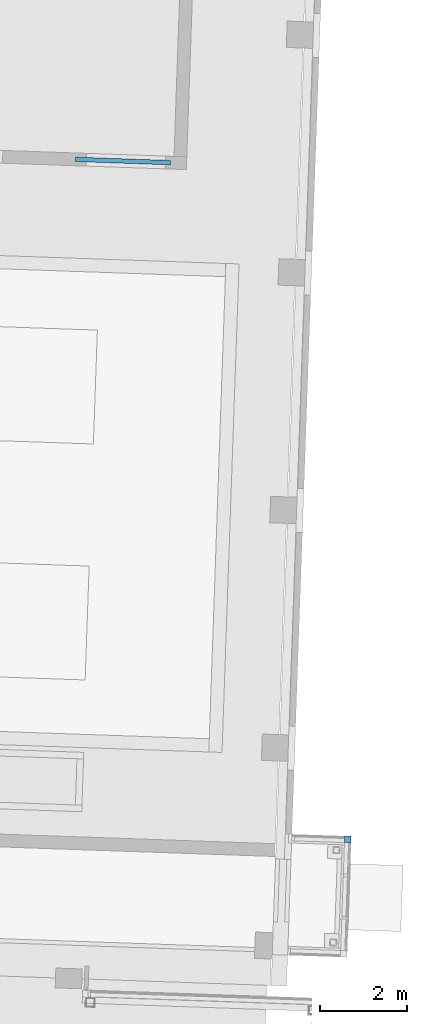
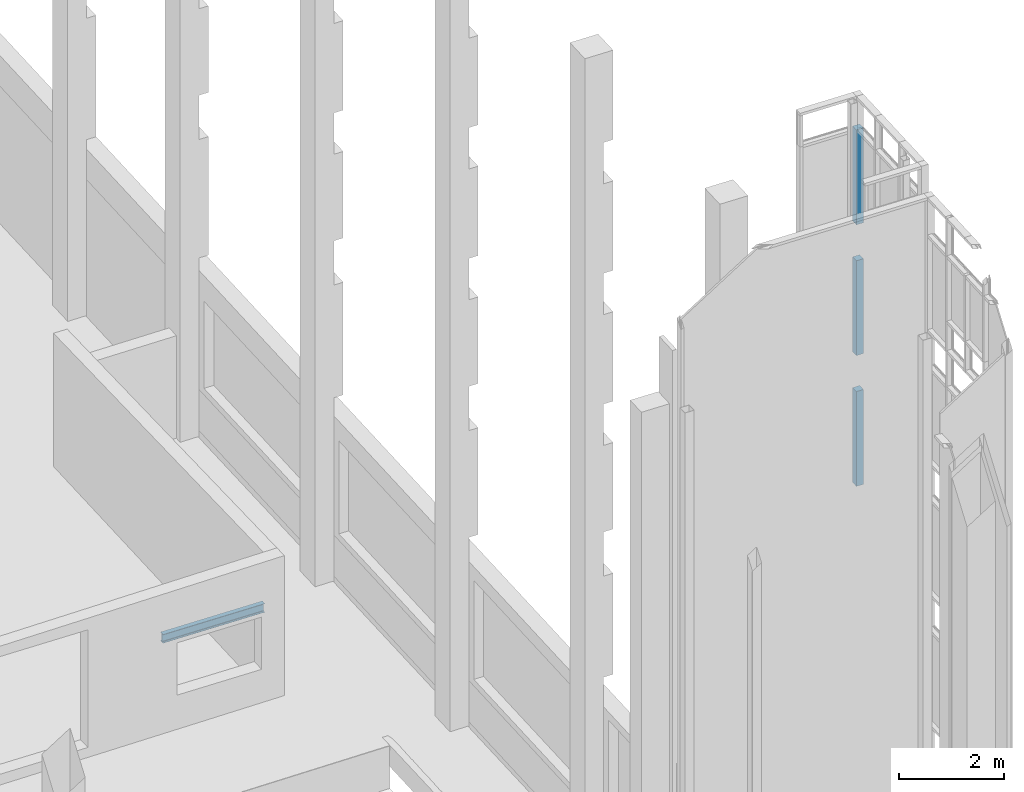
# One storey, part 12 of 44: 3 members, 1 beam, 1 element without a shape of its own.
"""IFC2X3 building model written with IfcOpenShell, lengths in feet."""

import ifcopenshell
import ifcopenshell.guid

model = None  # the IFC model being written
_history = None  # IfcOwnerHistory: only IFC2X3 demands one
_inside = {}  # id of a spatial element -> (the spatial element, [elements in it])
_under = {}  # id of a project, library or spatial element -> (it, [spatial elements below it])
_declared = {}  # id of a project -> (the project, [libraries it declares])
_typed = {}  # id of a type object -> (the type object, [elements of that type])
_made_of = {}  # id of a material, layer set ... -> (it, [elements and type objects made of it])


def new_model(schema):
    """Start an empty IFC model of exactly this schema.

    Asked for "IFC4X3", IfcOpenShell would pick the latest addendum, in which some entities
    have other attributes; the version numbers below select the first issue.
    IFC2X3 requires an IfcOwnerHistory on every rooted entity: one is made here for all.
    """
    global model, _history
    if schema == "IFC4X3":
        model = ifcopenshell.file(schema_version=(4, 3, 0, 0))
    else:
        model = ifcopenshell.file(schema=schema)
    _inside.clear()
    _under.clear()
    _declared.clear()
    _typed.clear()
    _made_of.clear()
    _history = None
    if model.schema == "IFC2X3":
        org = make("IfcOrganization", Name="unknown")
        user = make(
            "IfcPersonAndOrganization",
            ThePerson=make("IfcPerson", FamilyName="unknown"),
            TheOrganization=org,
        )
        app = make(
            "IfcApplication",
            ApplicationDeveloper=org,
            Version="unknown",
            ApplicationFullName="unknown",
            ApplicationIdentifier="unknown",
        )
        _history = make(
            "IfcOwnerHistory",
            OwningUser=user,
            OwningApplication=app,
            ChangeAction="ADDED",
            CreationDate=0,
        )
    return model


def make(cls, **values):
    """One entity of the class cls with the attributes given. An attribute that is None is left unset."""
    return model.create_entity(
        cls, **{name: value for name, value in values.items() if value is not None}
    )


def entity(cls, *values):
    """Any entity or typed value of the class cls, its attributes in the order of the schema. None: left unset."""
    e = model.create_entity(cls)
    for i, value in enumerate(values):
        if value is not None:
            e[i] = value
    return e


def rooted(cls, **values):
    """An entity with a GlobalId (a new one), such as an element, a storey or a relation."""
    return make(cls, GlobalId=ifcopenshell.guid.new(), OwnerHistory=_history, **values)


def si_unit(unit_type, name, prefix=None):
    """IfcSIUnit, for example si_unit("LENGTHUNIT", "METRE", prefix="MILLI")."""
    return make("IfcSIUnit", UnitType=unit_type, Prefix=prefix, Name=name)


def converted_unit(unit_type, name, factor, base, dimensions=None, offset=None):
    """IfcConversionBasedUnit, such as the inch: factor (a typed value) times the base unit."""
    return make(
        "IfcConversionBasedUnit"
        if offset is None
        else "IfcConversionBasedUnitWithOffset",
        ConversionOffset=offset,
        Dimensions=None
        if dimensions is None
        else entity("IfcDimensionalExponents", *dimensions),
        UnitType=unit_type,
        Name=name,
        ConversionFactor=make(
            "IfcMeasureWithUnit", ValueComponent=factor, UnitComponent=base
        ),
    )


def derived_unit(unit_type, elements):
    """IfcDerivedUnit: a product of units, each with its exponent."""
    return make(
        "IfcDerivedUnit",
        Elements=[
            make("IfcDerivedUnitElement", Unit=unit, Exponent=power)
            for unit, power in elements
        ],
        UnitType=unit_type,
    )


def assignment(units):
    """IfcUnitAssignment: the units of a project."""
    return None if units is None else make("IfcUnitAssignment", Units=units)


def point(xyz):
    """IfcCartesianPoint."""
    return None if xyz is None else make("IfcCartesianPoint", Coordinates=xyz)


def direction(xyz):
    """IfcDirection."""
    return None if xyz is None else make("IfcDirection", DirectionRatios=xyz)


def frame(location, z_axis=None, x_axis=None):
    """IfcAxis2Placement3D, a coordinate frame: its origin and axes. An axis left out is left unset."""
    return make(
        "IfcAxis2Placement3D",
        Location=point(location),
        Axis=direction(z_axis),
        RefDirection=direction(x_axis),
    )


def frame_2d(location, x_axis=None):
    """IfcAxis2Placement2D, a coordinate frame in the plane: its origin and x axis."""
    return make(
        "IfcAxis2Placement2D", Location=point(location), RefDirection=direction(x_axis)
    )


def origin():
    """The frame at (0, 0, 0) with its axes left unset."""
    return frame((0.0, 0.0, 0.0))


def origin_2d_with_axis():
    """The frame at (0, 0) in the plane with the x axis (1, 0) written out."""
    return frame_2d((0.0, 0.0), x_axis=(1.0, 0.0))


def place(relative_to, where):
    """IfcLocalPlacement: puts the frame where relative to a parent placement (None: the world)."""
    return make(
        "IfcLocalPlacement", PlacementRelTo=relative_to, RelativePlacement=where
    )


def context(
    kind, dimensions, precision=None, world=None, true_north=None, identifier=None
):
    """IfcGeometricRepresentationContext, for example the 3D "Model" context."""
    return make(
        "IfcGeometricRepresentationContext",
        ContextIdentifier=identifier,
        ContextType=kind,
        CoordinateSpaceDimension=dimensions,
        Precision=precision,
        WorldCoordinateSystem=world,
        TrueNorth=true_north,
    )


def subcontext(parent, identifier, kind, view, scale=None):
    """IfcGeometricRepresentationSubContext, for example "Body" below "Model"."""
    return make(
        "IfcGeometricRepresentationSubContext",
        ContextIdentifier=identifier,
        ContextType=kind,
        ParentContext=parent,
        TargetScale=scale,
        TargetView=view,
    )


def project(units=None, contexts=None):
    """IfcProject with its units and contexts."""
    return rooted(
        "IfcProject",
        Name="project",
        RepresentationContexts=contexts,
        UnitsInContext=assignment(units),
    )


def spatial(cls, under=None, at=None, **own):
    """A site, building, storey or space (cls), placed at a placement, below another one or the project."""
    s = rooted(cls, ObjectPlacement=at, **own)
    if under is not None:
        _under.setdefault(under.id(), (under, []))[1].append(s)
    return s


def profile(cls, at=None, kind="AREA", **sizes):
    """A parametric profile (cls). Its sizes go by their IFC names, for example OverallWidth=200.0."""
    return make(cls, ProfileType=kind, Position=at, **sizes)


def rectangle(**sizes):
    """IfcRectangleProfileDef."""
    return profile("IfcRectangleProfileDef", **sizes)


def i_section(**sizes):
    """IfcIShapeProfileDef."""
    return profile("IfcIShapeProfileDef", **sizes)


def extrude(swept, where, along, depth):
    """IfcExtrudedAreaSolid: the profile swept, set in the frame where, extruded along a direction by depth."""
    return make(
        "IfcExtrudedAreaSolid",
        SweptArea=swept,
        Position=where,
        ExtrudedDirection=direction(along),
        Depth=depth,
    )


def shape(context_of_items, identifier, shape_type, items):
    """IfcShapeRepresentation: the items that make up one representation, for example the "Body"."""
    return make(
        "IfcShapeRepresentation",
        ContextOfItems=context_of_items,
        RepresentationIdentifier=identifier,
        RepresentationType=shape_type,
        Items=items,
    )


def material(Name=None, Category=None):
    """IfcMaterial."""
    return make("IfcMaterial", Name=Name, Category=Category)


def made_of(thing, what):
    """Note that an element or type object is made of a material, layer set ...; save() writes the relation."""
    if what is not None:
        _made_of.setdefault(what.id(), (what, []))[1].append(thing)
    return thing


def type_object(cls, material=None, **own):
    """A type object (cls), such as IfcWallType, which elements share."""
    return made_of(rooted(cls, **own), material)


def element(
    cls,
    number,
    at=None,
    inside=None,
    cuts=None,
    type_object=None,
    material=None,
    context=None,
    identifier="Body",
    shape_type=None,
    held_by="IfcProductDefinitionShape",
    body=None,
    shapes=None,
    **own,
):
    """One element of the class cls, such as IfcWall. Its Tag is "e" and its number.

    at: its placement. inside: the storey or other place that contains it. cuts: it is an
    opening in that element (IfcRelVoidsElement). A single representation is given by context,
    identifier, shape_type and body (its items); several are given by shapes. held_by: the class
    of the entity that holds the representations. save() writes the other relations.
    """
    e = rooted(cls, Tag="e%d" % number, ObjectPlacement=at, **own)
    if body is not None:
        shapes = [shape(context, identifier, shape_type, body)]
    if shapes is not None:
        e.Representation = make(held_by, Representations=shapes)
    if inside is not None:
        _inside.setdefault(inside.id(), (inside, []))[1].append(e)
    if cuts is not None:
        rooted(
            "IfcRelVoidsElement", RelatingBuildingElement=cuts, RelatedOpeningElement=e
        )
    if type_object is not None:
        _typed.setdefault(type_object.id(), (type_object, []))[1].append(e)
    return made_of(e, material)


def aggregate(whole, parts):
    """IfcRelAggregates: a whole, such as a stair, and the parts it consists of."""
    return rooted("IfcRelAggregates", RelatingObject=whole, RelatedObjects=parts)


def save(model, path):
    """Write the relations noted so far, then the file.

    IfcRelAggregates (storeys below a building ...), IfcRelContainedInSpatialStructure (elements
    in a storey), IfcRelDefinesByType, IfcRelAssociatesMaterial and IfcRelDeclares: one each for
    every whole, place, type object, material and project.
    """
    for whole, parts in _under.values():
        aggregate(whole, parts)
    for where, things in _inside.values():
        rooted(
            "IfcRelContainedInSpatialStructure",
            RelatedElements=things,
            RelatingStructure=where,
        )
    for kind, things in _typed.values():
        rooted("IfcRelDefinesByType", RelatedObjects=things, RelatingType=kind)
    for what, things in _made_of.values():
        rooted("IfcRelAssociatesMaterial", RelatedObjects=things, RelatingMaterial=what)
    for by, libraries in _declared.values():
        rooted("IfcRelDeclares", RelatingContext=by, RelatedDefinitions=libraries)
    model.write(path)


model = new_model("IFC2X3")

# Units and contexts
model_context = context("Model", 3, precision=0.0001, world=origin(), true_north=direction((0.999390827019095, 0.0348994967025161)))
body_context = subcontext(model_context, "Body", "Model", "MODEL_VIEW")
ifc_project = project(units=[converted_unit("LENGTHUNIT", "FOOT", entity("IfcRatioMeasure", 0.3048), si_unit("LENGTHUNIT", "METRE"), dimensions=[1, 0, 0, 0, 0, 0, 0]), converted_unit("AREAUNIT", "SQUARE FOOT", entity("IfcRatioMeasure", 0.09290304), si_unit("AREAUNIT", "SQUARE_METRE"), dimensions=[2, 0, 0, 0, 0, 0, 0]), converted_unit("VOLUMEUNIT", "CUBIC FOOT", entity("IfcRatioMeasure", 0.028316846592), si_unit("VOLUMEUNIT", "CUBIC_METRE"), dimensions=[3, 0, 0, 0, 0, 0, 0]), converted_unit("PLANEANGLEUNIT", "DEGREE", entity("IfcRatioMeasure", 0.0174532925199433), si_unit("PLANEANGLEUNIT", "RADIAN"), dimensions=[0, 0, 0, 0, 0, 0, 0]), si_unit("MASSUNIT", "GRAM", prefix="KILO"), si_unit("TIMEUNIT", "SECOND"), si_unit("FREQUENCYUNIT", "HERTZ"), si_unit("THERMODYNAMICTEMPERATUREUNIT", "DEGREE_CELSIUS"), derived_unit("THERMALTRANSMITTANCEUNIT", [(si_unit("MASSUNIT", "GRAM", prefix="KILO"), 1), (si_unit("THERMODYNAMICTEMPERATUREUNIT", "KELVIN"), -1), (si_unit("TIMEUNIT", "SECOND"), -3)]), derived_unit("VOLUMETRICFLOWRATEUNIT", [(si_unit("LENGTHUNIT", "METRE"), 3), (si_unit("TIMEUNIT", "SECOND"), -1)]), si_unit("ELECTRICCURRENTUNIT", "AMPERE"), si_unit("ELECTRICVOLTAGEUNIT", "VOLT"), si_unit("POWERUNIT", "WATT"), si_unit("FORCEUNIT", "NEWTON"), si_unit("ILLUMINANCEUNIT", "LUX"), si_unit("LUMINOUSFLUXUNIT", "LUMEN"), si_unit("LUMINOUSINTENSITYUNIT", "CANDELA"), derived_unit("USERDEFINED", [(si_unit("MASSUNIT", "GRAM", prefix="KILO"), -1), (si_unit("LENGTHUNIT", "METRE"), -2), (si_unit("TIMEUNIT", "SECOND"), 3), (si_unit("LUMINOUSFLUXUNIT", "LUMEN"), 1)]), derived_unit("LINEARVELOCITYUNIT", [(si_unit("LENGTHUNIT", "METRE"), 1), (si_unit("TIMEUNIT", "SECOND"), -1)]), si_unit("PRESSUREUNIT", "PASCAL"), derived_unit("USERDEFINED", [(si_unit("LENGTHUNIT", "METRE"), -2), (si_unit("MASSUNIT", "GRAM", prefix="KILO"), 1), (si_unit("TIMEUNIT", "SECOND"), -2)])], contexts=[model_context])

# Site, building, storey
site_placement = place(None, frame((892.518771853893, 322.38689265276, 0.00393700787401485), z_axis=(0.0, 0.0, 1.0), x_axis=(0.0348994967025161, 0.999390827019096, 0.0)))
site = spatial("IfcSite", under=ifc_project, at=site_placement, Name="Default", CompositionType="ELEMENT")
building_placement = place(site_placement, origin())
building = spatial("IfcBuilding", under=site, at=building_placement, CompositionType="ELEMENT")
storey_placement = place(building_placement, frame((0.0, 0.0, 544.75)))
storey = spatial("IfcBuildingStorey", under=building, at=storey_placement, Name="Exist Garage - Ground Level", CompositionType="ELEMENT", Elevation=544.75)

# Curtain wall, members
curtain_wall_type = type_object("IfcCurtainWallType", Name="Curtain Wall:(Existing) Curtainwall - Blank", PredefinedType="NOTDEFINED")
curtain_wall_placement = place(storey_placement, frame((0.0, 0.0, -544.75)))
curtain_wall = element("IfcCurtainWall", 1, at=curtain_wall_placement, inside=storey, type_object=curtain_wall_type, Name="Curtain Wall:(Existing) Curtainwall - Blank", ObjectType="Curtain Wall:(Existing) Curtainwall - Blank")
ifc_material_1 = material(Name="Metal - Aluminum")
member_1_placement = place(curtain_wall_placement, frame((0.0, 0.0, 544.75)))
member_1 = element("IfcMember", 2, at=member_1_placement, material=ifc_material_1, Name="Curtain Wall:(Existing) Curtainwall - Blank", ObjectType="Curtain Wall:(Existing) Curtainwall - Blank", context=body_context, shape_type="SweptSolid", body=[
    extrude(rectangle(XDim=0.5, YDim=0.5, at=origin_2d_with_axis()), frame((114.177296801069, 231.013953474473, 49.5), z_axis=(0.0, 0.0, -1.0), x_axis=(-1.0, 0.0, 0.0)), (0.0, 0.0, 1.0), 7.25),
])
member_2_placement = place(curtain_wall_placement, frame((0.0, 0.0, 544.75)))
member_2 = element("IfcMember", 3, at=member_2_placement, material=ifc_material_1, Name="Curtain Wall:(Existing) Curtainwall - Blank", ObjectType="Curtain Wall:(Existing) Curtainwall - Blank", context=body_context, shape_type="SweptSolid", body=[
    extrude(rectangle(XDim=0.5, YDim=0.5, at=origin_2d_with_axis()), frame((114.177296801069, 231.013953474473, 59.5), z_axis=(0.0, 0.0, -1.0), x_axis=(-1.0, 0.0, 0.0)), (0.0, 0.0, 1.0), 7.25),
])
member_3_placement = place(curtain_wall_placement, frame((0.0, 0.0, 544.75)))
member_3 = element("IfcMember", 4, at=member_3_placement, material=ifc_material_1, Name="Curtain Wall:(Existing) Curtainwall - Blank", ObjectType="Curtain Wall:(Existing) Curtainwall - Blank", context=body_context, shape_type="SweptSolid", body=[
    extrude(rectangle(XDim=0.5, YDim=0.5, at=origin_2d_with_axis()), frame((114.177296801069, 231.013953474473, 69.5), z_axis=(0.0, 0.0, -1.0), x_axis=(-1.0, 0.0, 0.0)), (0.0, 0.0, 1.0), 7.25),
])
aggregate(curtain_wall, [member_1, member_2, member_3])

# Beam
ifc_material_2 = material(Name="Metal - Steel - ASTM A992")
beam_placement = place(storey_placement, frame((164.906598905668, 253.430620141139, 6.79166666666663), z_axis=(0.0, 0.0, 1.0), x_axis=(0.0, -1.0, 0.0)))
element("IfcBeam", 5, at=beam_placement, inside=storey, material=ifc_material_2, Name="05_W-Wide Flange:W8X13", ObjectType="05_W-Wide Flange:W8X13", context=body_context, shape_type="SweptSolid", body=[
    extrude(i_section(OverallWidth=0.333333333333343, OverallDepth=0.665833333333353, WebThickness=0.0191666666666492, FlangeThickness=0.0212500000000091, FilletRadius=0.0412499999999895, at=frame_2d((5.6843418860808e-14, -1.4210854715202e-14), x_axis=(0.0, 1.0))), frame((0.0, 0.0, -0.33291666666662), z_axis=(1.0, 0.0, 0.0), x_axis=(0.0, 0.0, -1.0)), (0.0, 0.0, 1.0), 7.22395833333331),
])

save(model, "model.ifc")
